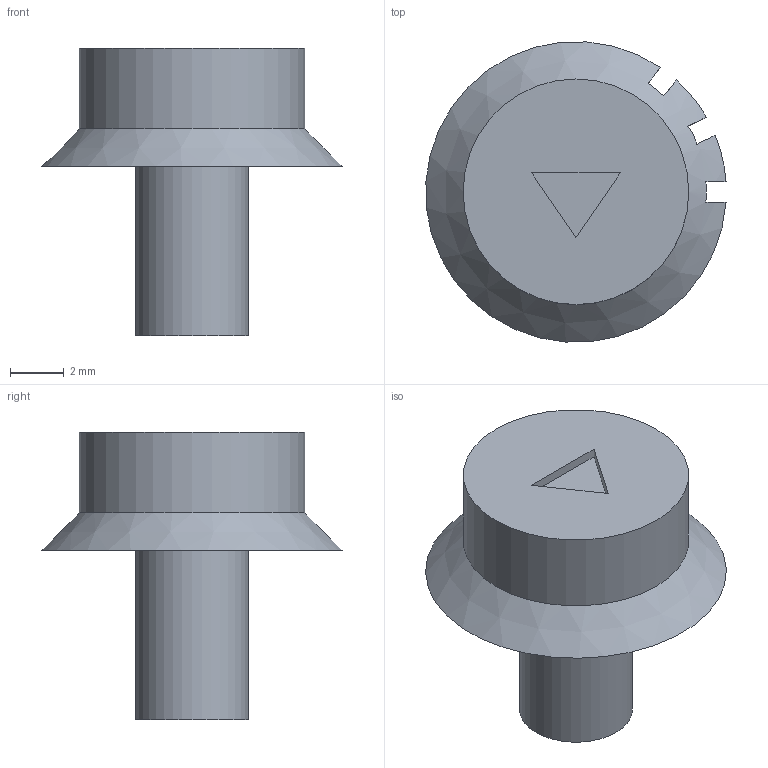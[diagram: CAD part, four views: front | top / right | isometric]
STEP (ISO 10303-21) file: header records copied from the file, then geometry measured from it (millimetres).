
FILE_DESCRIPTION(('Open CASCADE Model'),'2;1');
FILE_NAME('Open CASCADE Shape Model','2026-09-26T12:51:09',('Author'),( 'Open CASCADE'),'Open CASCADE STEP processor 7.8','Open CASCADE 7.8' ,'Unknown');
FILE_SCHEMA(('AUTOMOTIVE_DESIGN { 1 0 10303 214 1 1 1 1 }'));
Length unit declared in the file: millimetre
Products named in the file (1): Open CASCADE STEP translator 7.8 7
Bounding box: 11.17 x 11.17 x 10.7 mm (x, y, z)
Volume: 357.7 mm3; surface area: 380.1 mm2
Topology: 1 solids, 1 shells, 22 faces, 53 edges, 35 vertices
Faces by surface type: plane 19, cylinder 2, cone 1
Full cylindrical faces by diameter (mm): 4.2 x1, 8.4 x1
Entity records: 1363 total; most frequent: CARTESIAN_POINT 256, DIRECTION 212, LINE 117, VECTOR 117, ORIENTED_EDGE 106, PCURVE 106, DEFINITIONAL_REPRESENTATION 106, EDGE_CURVE 53
